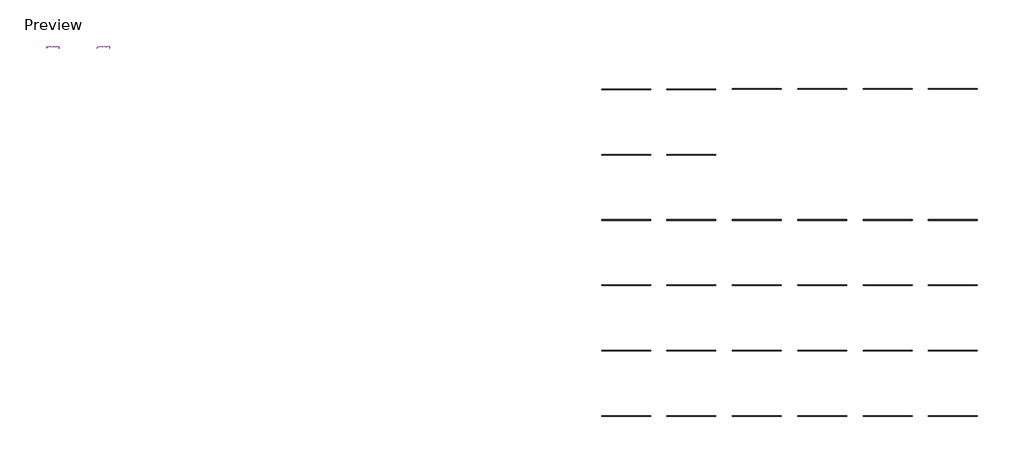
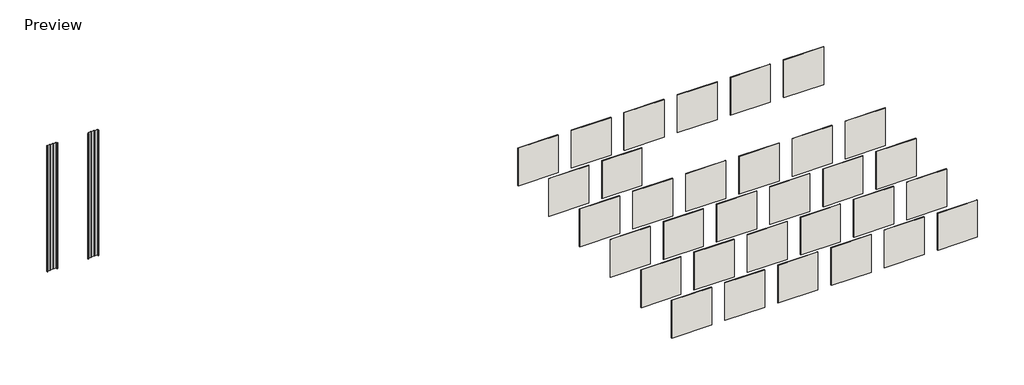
# One storey: 32 walls, 2 proxies.
"""IFC4 building model written with IfcOpenShell, lengths in millimetres."""

from ifc_helpers import new_model, si_unit, frame, origin, origin_with_axes, place, context, project, spatial, polyline, outline, extrude, transform, mapped, element, save
from components import field_lok_fls137_fls137_6885bc76, field_lok_fls180_fls180_1863bc29

model = new_model("IFC4")

# Units and contexts
model_context = context("Model", 3, world=origin())
ifc_project = project(units=[si_unit("LENGTHUNIT", "METRE", prefix="MILLI")], contexts=[model_context])

# Site, building, storey
site = spatial("IfcSite", under=ifc_project)
building = spatial("IfcBuilding", under=site)
storey = spatial("IfcBuildingStorey", under=building, Name="Preview", Elevation=0.0)

# Proxies
placement = place(None, origin())
field_lok_fls137_fls137_shape = field_lok_fls137_fls137_6885bc76(model_context)
element("IfcBuildingElementProxy", 1, Name="Field Lok FLS137 : FLS137", ObjectType="Field Lok FLS137 : FLS137", at=placement, inside=storey, context=model_context, shape_type="MappedRepresentation", body=[
    mapped(field_lok_fls137_fls137_shape, transform((-40833.333268, 19903.0873646, 5262.3044086), x_axis=(0.0, 0.0, 1.0), y_axis=(-1.0, 0.0, 0.0), z_axis=(0.0, -1.0, 0.0))),
])
field_lok_fls180_fls180_shape = field_lok_fls180_fls180_1863bc29(model_context)
element("IfcBuildingElementProxy", 2, Name="Field Lok FLS180 : FLS180", ObjectType="Field Lok FLS180 : FLS180", at=placement, inside=storey, context=model_context, shape_type="MappedRepresentation", body=[
    mapped(field_lok_fls180_fls180_shape, transform((-39496.4331193, 19903.0873646, 6662.8813999), x_axis=(1.0, 0.0, 0.0), y_axis=(0.0, 0.0, 1.0), z_axis=(0.0, -1.0, 0.0))),
])

# Walls
element("IfcWall", 3, ObjectType="ATAS_Ascot White", at=placement, inside=storey, context=model_context, shape_type="SweptSolid", body=[
    extrude(outline(polyline([(-18839.3718391, 8535.7201131), (-20668.1718391, 8535.7201131), (-20668.1718391, 8559.5326131), (-18839.3718391, 8559.5326131), (-18839.3718391, 8535.7201131)])), origin_with_axes(), (0.0, 0.0, 1.0), 1828.8),
])
element("IfcWall", 4, ObjectType="ATAS_Classic Bronze", at=placement, inside=storey, context=model_context, shape_type="SweptSolid", body=[
    extrude(outline(polyline([(-16400.9718391, 8535.7201131), (-18229.7718391, 8535.7201131), (-18229.7718391, 8559.5326131), (-16400.9718391, 8559.5326131), (-16400.9718391, 8535.7201131)])), origin_with_axes(), (0.0, 0.0, 1.0), 1828.8),
])
element("IfcWall", 5, ObjectType="ATAS_Teal", at=placement, inside=storey, context=model_context, shape_type="SweptSolid", body=[
    extrude(outline(polyline([(-13962.5718391, 8535.7201131), (-15791.3718391, 8535.7201131), (-15791.3718391, 8559.5326131), (-13962.5718391, 8559.5326131), (-13962.5718391, 8535.7201131)])), origin_with_axes(), (0.0, 0.0, 1.0), 1828.8),
])
element("IfcWall", 6, ObjectType="ATAS_Boysenberry", at=placement, inside=storey, context=model_context, shape_type="SweptSolid", body=[
    extrude(outline(polyline([(-11524.1718391, 8535.7201131), (-13352.9718391, 8535.7201131), (-13352.9718391, 8559.5326131), (-11524.1718391, 8559.5326131), (-11524.1718391, 8535.7201131)])), origin_with_axes(), (0.0, 0.0, 1.0), 1828.8),
])
element("IfcWall", 7, ObjectType="ATAS_Rawhide", at=placement, inside=storey, context=model_context, shape_type="SweptSolid", body=[
    extrude(outline(polyline([(-9085.7718391, 8535.7201131), (-10914.5718391, 8535.7201131), (-10914.5718391, 8559.5326131), (-9085.7718391, 8559.5326131), (-9085.7718391, 8535.7201131)])), origin_with_axes(), (0.0, 0.0, 1.0), 1828.8),
])
element("IfcWall", 8, ObjectType="ATAS_Regal Blue", at=placement, inside=storey, context=model_context, shape_type="SweptSolid", body=[
    extrude(outline(polyline([(-6647.3718391, 8535.7201131), (-8476.1718391, 8535.7201131), (-8476.1718391, 8559.5326131), (-6647.3718391, 8559.5326131), (-6647.3718391, 8535.7201131)])), origin_with_axes(), (0.0, 0.0, 1.0), 1828.8),
])
element("IfcWall", 9, ObjectType="ATAS_Black", at=placement, inside=storey, context=model_context, shape_type="SweptSolid", body=[
    extrude(outline(polyline([(-18839.3718391, 6097.3201131), (-20668.1718391, 6097.3201131), (-20668.1718391, 6121.1326131), (-18839.3718391, 6121.1326131), (-18839.3718391, 6097.3201131)])), origin_with_axes(), (0.0, 0.0, 1.0), 1828.8),
])
element("IfcWall", 10, ObjectType="ATAS_Forest Green", at=placement, inside=storey, context=model_context, shape_type="SweptSolid", body=[
    extrude(outline(polyline([(-16400.9718391, 6097.3201131), (-18229.7718391, 6097.3201131), (-18229.7718391, 6121.1326131), (-16400.9718391, 6121.1326131), (-16400.9718391, 6097.3201131)])), origin_with_axes(), (0.0, 0.0, 1.0), 1828.8),
])
element("IfcWall", 11, ObjectType="ATAS_Chocolate Brown", at=placement, inside=storey, context=model_context, shape_type="SweptSolid", body=[
    extrude(outline(polyline([(-13962.5718391, 6097.3201131), (-15791.3718391, 6097.3201131), (-15791.3718391, 6121.1326131), (-13962.5718391, 6121.1326131), (-13962.5718391, 6097.3201131)])), origin_with_axes(), (0.0, 0.0, 1.0), 1828.8),
])
element("IfcWall", 12, ObjectType="ATAS_Sierra Tan", at=placement, inside=storey, context=model_context, shape_type="SweptSolid", body=[
    extrude(outline(polyline([(-11524.1718391, 6097.3201131), (-13352.9718391, 6097.3201131), (-13352.9718391, 6121.1326131), (-11524.1718391, 6121.1326131), (-11524.1718391, 6097.3201131)])), origin_with_axes(), (0.0, 0.0, 1.0), 1828.8),
])
element("IfcWall", 13, ObjectType="ATAS_Sandstone", at=placement, inside=storey, context=model_context, shape_type="SweptSolid", body=[
    extrude(outline(polyline([(-9085.7718391, 6097.3201131), (-10914.5718391, 6097.3201131), (-10914.5718391, 6121.1326131), (-9085.7718391, 6121.1326131), (-9085.7718391, 6097.3201131)])), origin_with_axes(), (0.0, 0.0, 1.0), 1828.8),
])
element("IfcWall", 14, ObjectType="ATAS_Rocky Grey", at=placement, inside=storey, context=model_context, shape_type="SweptSolid", body=[
    extrude(outline(polyline([(-6647.3718391, 6097.3201131), (-8476.1718391, 6097.3201131), (-8476.1718391, 6121.1326131), (-6647.3718391, 6121.1326131), (-6647.3718391, 6097.3201131)])), origin_with_axes(), (0.0, 0.0, 1.0), 1793.6354952),
])
element("IfcWall", 15, ObjectType="ATAS_Charcoal Grey", at=placement, inside=storey, context=model_context, shape_type="SweptSolid", body=[
    extrude(outline(polyline([(-18839.3718391, 10974.1201131), (-20668.1718391, 10974.1201131), (-20668.1718391, 10997.9326131), (-18839.3718391, 10997.9326131), (-18839.3718391, 10974.1201131)])), origin_with_axes(), (0.0, 0.0, 1.0), 1828.8),
])
element("IfcWall", 16, ObjectType="ATAS_Bone White", at=placement, inside=storey, context=model_context, shape_type="SweptSolid", body=[
    extrude(outline(polyline([(-16400.9718391, 10974.1201131), (-18229.7718391, 10974.1201131), (-18229.7718391, 10997.9326131), (-16400.9718391, 10997.9326131), (-16400.9718391, 10974.1201131)])), origin_with_axes(), (0.0, 0.0, 1.0), 1828.8),
])
element("IfcWall", 17, ObjectType="ATAS_Medium Bronze", at=placement, inside=storey, context=model_context, shape_type="SweptSolid", body=[
    extrude(outline(polyline([(-13962.5718391, 10974.1201131), (-15791.3718391, 10974.1201131), (-15791.3718391, 10997.9326131), (-13962.5718391, 10997.9326131), (-13962.5718391, 10974.1201131)])), origin_with_axes(), (0.0, 0.0, 1.0), 1828.8),
])
element("IfcWall", 18, ObjectType="ATAS_Hemlock Green", at=placement, inside=storey, context=model_context, shape_type="SweptSolid", body=[
    extrude(outline(polyline([(-11524.1718391, 10974.1201131), (-13352.9718391, 10974.1201131), (-13352.9718391, 10997.9326131), (-11524.1718391, 10997.9326131), (-11524.1718391, 10974.1201131)])), origin_with_axes(), (0.0, 0.0, 1.0), 1828.8),
])
element("IfcWall", 19, ObjectType="ATAS_Redwood", at=placement, inside=storey, context=model_context, shape_type="SweptSolid", body=[
    extrude(outline(polyline([(-9085.7718391, 10974.1201131), (-10914.5718391, 10974.1201131), (-10914.5718391, 10997.9326131), (-9085.7718391, 10997.9326131), (-9085.7718391, 10974.1201131)])), origin_with_axes(), (0.0, 0.0, 1.0), 1828.8),
])
element("IfcWall", 20, ObjectType="ATAS_Concord Cream", at=placement, inside=storey, context=model_context, shape_type="SweptSolid", body=[
    extrude(outline(polyline([(-6647.3718391, 10974.1201131), (-8476.1718391, 10974.1201131), (-8476.1718391, 10997.9326131), (-6647.3718391, 10997.9326131), (-6647.3718391, 10974.1201131)])), origin_with_axes(), (0.0, 0.0, 1.0), 1828.8),
])
element("IfcWall", 21, ObjectType="ATAS_Slate Blue", at=placement, inside=storey, context=model_context, shape_type="SweptSolid", body=[
    extrude(outline(polyline([(-18839.3718391, 13412.5201131), (-20668.1718391, 13412.5201131), (-20668.1718391, 13436.3326131), (-18839.3718391, 13436.3326131), (-18839.3718391, 13412.5201131)])), origin_with_axes(), (0.0, 0.0, 1.0), 1828.8),
])
element("IfcWall", 22, ObjectType="ATAS_Slate Grey", at=placement, inside=storey, context=model_context, shape_type="SweptSolid", body=[
    extrude(outline(polyline([(-16400.9718391, 13412.5201131), (-18229.7718391, 13412.5201131), (-18229.7718391, 13436.3326131), (-16400.9718391, 13436.3326131), (-16400.9718391, 13412.5201131)])), origin_with_axes(), (0.0, 0.0, 1.0), 1828.8),
])
element("IfcWall", 23, ObjectType="ATAS_Hatford Green", at=placement, inside=storey, context=model_context, shape_type="SweptSolid", body=[
    extrude(outline(polyline([(-13962.5718391, 13412.5201131), (-15791.3718391, 13412.5201131), (-15791.3718391, 13436.3326131), (-13962.5718391, 13436.3326131), (-13962.5718391, 13412.5201131)])), origin_with_axes(), (0.0, 0.0, 1.0), 1828.8),
])
element("IfcWall", 24, ObjectType="ATAS_Patina Green", at=placement, inside=storey, context=model_context, shape_type="SweptSolid", body=[
    extrude(outline(polyline([(-11524.1718391, 13412.5201131), (-13352.9718391, 13412.5201131), (-13352.9718391, 13436.3326131), (-11524.1718391, 13436.3326131), (-11524.1718391, 13412.5201131)])), frame((0.0, 0.0, -5.2424975), z_axis=(0.0, 0.0, 1.0), x_axis=(1.0, 0.0, 0.0)), (0.0, 0.0, 1.0), 1834.0424975),
])
element("IfcWall", 25, ObjectType="ATAS_Mission Red", at=placement, inside=storey, context=model_context, shape_type="SweptSolid", body=[
    extrude(outline(polyline([(-9085.7718391, 13412.5201131), (-10914.5718391, 13412.5201131), (-10914.5718391, 13436.3326131), (-9085.7718391, 13436.3326131), (-9085.7718391, 13412.5201131)])), origin_with_axes(), (0.0, 0.0, 1.0), 1828.8),
])
element("IfcWall", 26, ObjectType="ATAS_Almond", at=placement, inside=storey, context=model_context, shape_type="SweptSolid", body=[
    extrude(outline(polyline([(-6647.3718391, 13412.5201131), (-8476.1718391, 13412.5201131), (-8476.1718391, 13436.3326131), (-6647.3718391, 13436.3326131), (-6647.3718391, 13412.5201131)])), origin_with_axes(), (0.0, 0.0, 1.0), 1828.8),
])
element("IfcWall", 27, ObjectType="ATAS_Siam Blue", at=placement, inside=storey, context=model_context, shape_type="SweptSolid", body=[
    extrude(outline(polyline([(-18839.3718391, 15850.9201131), (-20668.1718391, 15850.9201131), (-20668.1718391, 15874.7326131), (-18839.3718391, 15874.7326131), (-18839.3718391, 15850.9201131)])), origin_with_axes(), (0.0, 0.0, 1.0), 1828.8),
])
element("IfcWall", 28, ObjectType="ATAS_Dove Grey", at=placement, inside=storey, context=model_context, shape_type="SweptSolid", body=[
    extrude(outline(polyline([(-16400.9718391, 15850.9201131), (-18229.7718391, 15850.9201131), (-18229.7718391, 15874.7326131), (-16400.9718391, 15874.7326131), (-16400.9718391, 15850.9201131)])), origin_with_axes(), (0.0, 0.0, 1.0), 1828.8),
])
element("IfcWall", 29, ObjectType="ATAS_Antique Patina", at=placement, inside=storey, context=model_context, shape_type="SweptSolid", body=[
    extrude(outline(polyline([(-13962.5718391, 18313.1326131), (-15791.3718391, 18313.1326131), (-15791.3718391, 18336.9451131), (-13962.5718391, 18336.9451131), (-13962.5718391, 18313.1326131)])), origin_with_axes(), (0.0, 0.0, 1.0), 1828.8),
])
element("IfcWall", 30, ObjectType="ATAS_Champagne", at=placement, inside=storey, context=model_context, shape_type="SweptSolid", body=[
    extrude(outline(polyline([(-11524.1718391, 18313.1326131), (-13352.9718391, 18313.1326131), (-13352.9718391, 18336.9451131), (-11524.1718391, 18336.9451131), (-11524.1718391, 18313.1326131)])), origin_with_axes(), (0.0, 0.0, 1.0), 1828.8),
])
element("IfcWall", 31, ObjectType="ATAS_Coppertone", at=placement, inside=storey, context=model_context, shape_type="SweptSolid", body=[
    extrude(outline(polyline([(-9085.7718391, 18313.1326131), (-10914.5718391, 18313.1326131), (-10914.5718391, 18336.9451131), (-9085.7718391, 18336.9451131), (-9085.7718391, 18313.1326131)])), origin_with_axes(), (0.0, 0.0, 1.0), 1828.8),
])
element("IfcWall", 32, ObjectType="ATAS_Silversmith", at=placement, inside=storey, context=model_context, shape_type="SweptSolid", body=[
    extrude(outline(polyline([(-18839.3718391, 18289.3201131), (-20668.1718391, 18289.3201131), (-20668.1718391, 18313.1326131), (-18839.3718391, 18313.1326131), (-18839.3718391, 18289.3201131)])), origin_with_axes(), (0.0, 0.0, 1.0), 1828.8),
])
element("IfcWall", 33, ObjectType="ATAS_Brite Red", at=placement, inside=storey, context=model_context, shape_type="SweptSolid", body=[
    extrude(outline(polyline([(-16400.9718391, 18289.3201131), (-18229.7718391, 18289.3201131), (-18229.7718391, 18313.1326131), (-16400.9718391, 18313.1326131), (-16400.9718391, 18289.3201131)])), origin_with_axes(), (0.0, 0.0, 1.0), 1828.8),
])
element("IfcWall", 34, ObjectType="ATAS_Titanium", at=placement, inside=storey, context=model_context, shape_type="SweptSolid", body=[
    extrude(outline(polyline([(-6647.3718391, 18313.1326131), (-8476.1718391, 18313.1326131), (-8476.1718391, 18336.9451131), (-6647.3718391, 18336.9451131), (-6647.3718391, 18313.1326131)])), origin_with_axes(), (0.0, 0.0, 1.0), 1828.8),
])

save(model, "model.ifc")
